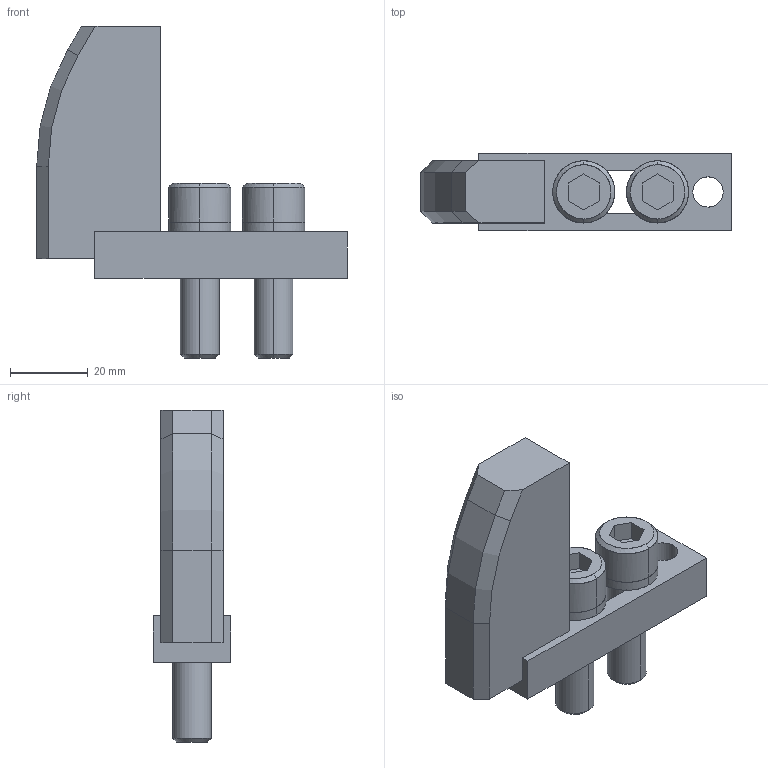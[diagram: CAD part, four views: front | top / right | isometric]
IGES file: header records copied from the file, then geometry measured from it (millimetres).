
Global section: file name: E:\UnigraphicsGraphicData\MISUMI_PRESS-PARTS\IGES\3d_enstd65-20-m10_01441_r00.igs; native system: NX V5.0; preprocessor: UGS NX IGES V5.0; author: MISUMI; date: 20110105.160629; units: millimetre
Bounding box: 80 x 20 x 85.5 mm (x, y, z)
Surface area: 15296.2 mm2 (no closed solid volume)
Topology: 0 solids, 0 shells, 74 faces, 457 edges, 457 vertices
Faces by surface type: bspline 74
